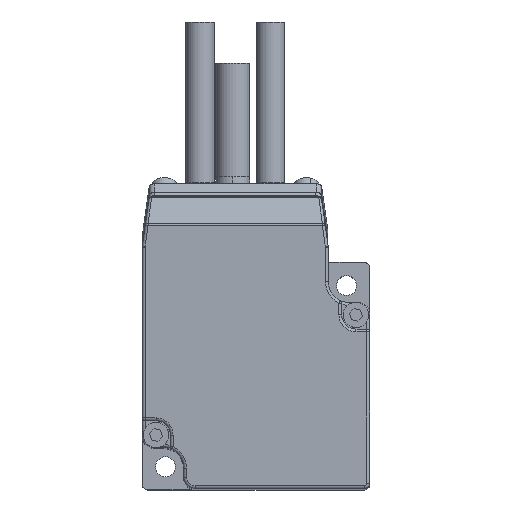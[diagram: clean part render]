
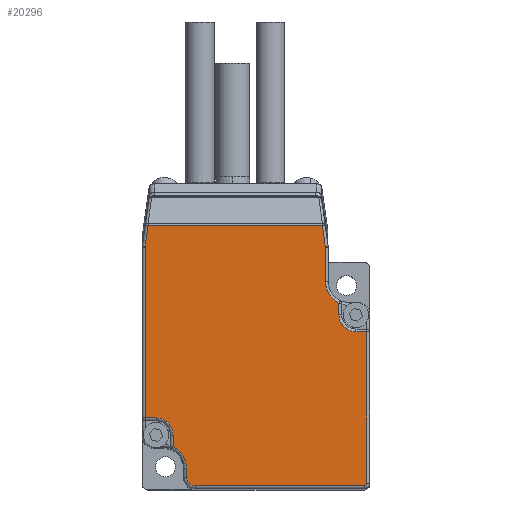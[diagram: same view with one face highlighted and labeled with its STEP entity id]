
A CAD part, top view. The second image highlights one B-rep face of the part: STEP entity #20296.
In plain terms, the highlighted planar face has unit normal (0, 0, 1).
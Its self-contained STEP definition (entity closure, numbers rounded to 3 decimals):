
#33 = VERTEX_POINT ( 'NONE', #17916 ) ;
#216 = EDGE_CURVE ( 'NONE', #25362, #13945, #21720, .T. ) ;
#451 = VECTOR ( 'NONE', #20936, 1000. ) ;
#492 = DIRECTION ( 'NONE',  ( 0., 0., 1. ) ) ;
#624 = AXIS2_PLACEMENT_3D ( 'NONE', #8398, #23127, #10527 ) ;
#648 = AXIS2_PLACEMENT_3D ( 'NONE', #25121, #21177, #12716 ) ;
#853 = ORIENTED_EDGE ( 'NONE', *, *, #216, .T. ) ;
#933 = DIRECTION ( 'NONE',  ( 0., -1., 0. ) ) ;
#1105 = CARTESIAN_POINT ( 'NONE',  ( 19.5, -19., 110.9 ) ) ;
#1124 = LINE ( 'NONE', #18381, #11713 ) ;
#1130 = CARTESIAN_POINT ( 'NONE',  ( -16.4, -16.4, 110.9 ) ) ;
#1301 = VERTEX_POINT ( 'NONE', #13078 ) ;
#1383 = ORIENTED_EDGE ( 'NONE', *, *, #20427, .T. ) ;
#1570 = CARTESIAN_POINT ( 'NONE',  ( 19., -19., 110.9 ) ) ;
#1739 = ORIENTED_EDGE ( 'NONE', *, *, #1761, .T. ) ;
#1761 = EDGE_CURVE ( 'NONE', #11754, #6625, #1843, .T. ) ;
#1843 = LINE ( 'NONE', #8227, #13425 ) ;
#2244 = EDGE_CURVE ( 'NONE', #20297, #21528, #11423, .T. ) ;
#2328 = EDGE_CURVE ( 'NONE', #21528, #5387, #3449, .T. ) ;
#2467 = DIRECTION ( 'NONE',  ( -0.139, 0.99, 0. ) ) ;
#2499 = ORIENTED_EDGE ( 'NONE', *, *, #2244, .T. ) ;
#2808 = CARTESIAN_POINT ( 'NONE',  ( 11.662, 26.293, 110.9 ) ) ;
#2841 = EDGE_CURVE ( 'NONE', #12619, #20297, #1124, .T. ) ;
#2984 = DIRECTION ( 'NONE',  ( -0.139, -0.99, 0. ) ) ;
#3262 = EDGE_CURVE ( 'NONE', #1301, #10643, #4762, .T. ) ;
#3449 = LINE ( 'NONE', #24603, #18982 ) ;
#3463 = VECTOR ( 'NONE', #22742, 1000. ) ;
#3482 = CIRCLE ( 'NONE', #10046, 4.2 ) ;
#3679 = DIRECTION ( 'NONE',  ( 1., 0., 0. ) ) ;
#3850 = ORIENTED_EDGE ( 'NONE', *, *, #4178, .T. ) ;
#3864 = ORIENTED_EDGE ( 'NONE', *, *, #12660, .T. ) ;
#3980 = CARTESIAN_POINT ( 'NONE',  ( 14.572, 10.558, 110.9 ) ) ;
#4083 = LINE ( 'NONE', #23343, #451 ) ;
#4178 = EDGE_CURVE ( 'NONE', #10643, #23416, #8676, .T. ) ;
#4249 = CARTESIAN_POINT ( 'NONE',  ( -19.5, -7.558, 110.9 ) ) ;
#4394 = AXIS2_PLACEMENT_3D ( 'NONE', #1570, #7914, #3679 ) ;
#4762 = LINE ( 'NONE', #9120, #14650 ) ;
#4964 = DIRECTION ( 'NONE',  ( 0., -1., 0. ) ) ;
#5133 = DIRECTION ( 'NONE',  ( 0., 1., 0. ) ) ;
#5387 = VERTEX_POINT ( 'NONE', #17021 ) ;
#5456 = EDGE_CURVE ( 'NONE', #23416, #11040, #8813, .T. ) ;
#5601 = LINE ( 'NONE', #9470, #13883 ) ;
#6264 = ORIENTED_EDGE ( 'NONE', *, *, #21857, .T. ) ;
#6607 = EDGE_CURVE ( 'NONE', #5387, #33, #11746, .T. ) ;
#6625 = VERTEX_POINT ( 'NONE', #24867 ) ;
#6764 = CARTESIAN_POINT ( 'NONE',  ( -17.572, -10.558, 110.9 ) ) ;
#6870 = CARTESIAN_POINT ( 'NONE',  ( -10.7, -18., 110.9 ) ) ;
#7296 = EDGE_CURVE ( 'NONE', #26459, #25362, #4083, .T. ) ;
#7441 = CARTESIAN_POINT ( 'NONE',  ( 17.572, 10.558, 110.9 ) ) ;
#7571 = EDGE_CURVE ( 'NONE', #8148, #12619, #19264, .T. ) ;
#7914 = DIRECTION ( 'NONE',  ( 0., 0., 1. ) ) ;
#7915 = DIRECTION ( 'NONE',  ( 1., 0., 0. ) ) ;
#7987 = CARTESIAN_POINT ( 'NONE',  ( 17.572, 7.558, 110.9 ) ) ;
#7999 = ORIENTED_EDGE ( 'NONE', *, *, #3262, .T. ) ;
#8148 = VERTEX_POINT ( 'NONE', #10165 ) ;
#8227 = CARTESIAN_POINT ( 'NONE',  ( -19.438, 26.293, 110.9 ) ) ;
#8398 = CARTESIAN_POINT ( 'NONE',  ( 16.4, 16.4, 110.9 ) ) ;
#8441 = CARTESIAN_POINT ( 'NONE',  ( 12.2, 16.4, 110.9 ) ) ;
#8676 = LINE ( 'NONE', #16591, #12670 ) ;
#8813 = CIRCLE ( 'NONE', #26288, 3. ) ;
#9120 = CARTESIAN_POINT ( 'NONE',  ( -19.5, -8.058, 110.9 ) ) ;
#9233 = DIRECTION ( 'NONE',  ( 1., 0., 0. ) ) ;
#9470 = CARTESIAN_POINT ( 'NONE',  ( 12.2, 22.5, 110.9 ) ) ;
#9645 = LINE ( 'NONE', #15651, #24484 ) ;
#9781 = DIRECTION ( 'NONE',  ( 1., 0., 0. ) ) ;
#10046 = AXIS2_PLACEMENT_3D ( 'NONE', #1130, #24174, #9781 ) ;
#10165 = CARTESIAN_POINT ( 'NONE',  ( -12.2, -18., 110.9 ) ) ;
#10216 = CARTESIAN_POINT ( 'NONE',  ( 19., -19.5, 110.9 ) ) ;
#10409 = VECTOR ( 'NONE', #23117, 1000. ) ;
#10527 = DIRECTION ( 'NONE',  ( 1., 0., 0. ) ) ;
#10643 = VERTEX_POINT ( 'NONE', #4249 ) ;
#11040 = VERTEX_POINT ( 'NONE', #27170 ) ;
#11247 = CARTESIAN_POINT ( 'NONE',  ( 11.643, 26.43, 110.9 ) ) ;
#11423 = CIRCLE ( 'NONE', #4394, 0.5 ) ;
#11703 = DIRECTION ( 'NONE',  ( 1., 0., 0. ) ) ;
#11713 = VECTOR ( 'NONE', #7915, 1000. ) ;
#11732 = LINE ( 'NONE', #18731, #10409 ) ;
#11746 = LINE ( 'NONE', #7987, #3463 ) ;
#11754 = VERTEX_POINT ( 'NONE', #2808 ) ;
#11825 = AXIS2_PLACEMENT_3D ( 'NONE', #7441, #11871, #11703 ) ;
#11871 = DIRECTION ( 'NONE',  ( 0., 0., -1. ) ) ;
#12288 = ORIENTED_EDGE ( 'NONE', *, *, #21990, .T. ) ;
#12351 = FACE_OUTER_BOUND ( 'NONE', #22385, .T. ) ;
#12358 = PLANE ( 'NONE',  #648 ) ;
#12619 = VERTEX_POINT ( 'NONE', #16129 ) ;
#12660 = EDGE_CURVE ( 'NONE', #20216, #14965, #3482, .T. ) ;
#12670 = VECTOR ( 'NONE', #25022, 1000. ) ;
#12716 = DIRECTION ( 'NONE',  ( 1., 0., 0. ) ) ;
#12926 = VECTOR ( 'NONE', #2467, 1000. ) ;
#13078 = CARTESIAN_POINT ( 'NONE',  ( -19.5, 22.465, 110.9 ) ) ;
#13140 = DIRECTION ( 'NONE',  ( 0., 0., -1. ) ) ;
#13425 = VECTOR ( 'NONE', #22972, 1000. ) ;
#13633 = ORIENTED_EDGE ( 'NONE', *, *, #7296, .T. ) ;
#13651 = CIRCLE ( 'NONE', #11825, 3. ) ;
#13851 = ORIENTED_EDGE ( 'NONE', *, *, #5456, .T. ) ;
#13883 = VECTOR ( 'NONE', #24293, 1000. ) ;
#13945 = VERTEX_POINT ( 'NONE', #8441 ) ;
#14237 = EDGE_CURVE ( 'NONE', #6625, #1301, #9645, .T. ) ;
#14394 = ORIENTED_EDGE ( 'NONE', *, *, #2328, .T. ) ;
#14650 = VECTOR ( 'NONE', #4964, 1000. ) ;
#14907 = LINE ( 'NONE', #11247, #12926 ) ;
#14965 = VERTEX_POINT ( 'NONE', #16703 ) ;
#15234 = VERTEX_POINT ( 'NONE', #17595 ) ;
#15379 = DIRECTION ( 'NONE',  ( 1., 0., 0. ) ) ;
#15651 = CARTESIAN_POINT ( 'NONE',  ( -19.505, 22.43, 110.9 ) ) ;
#15802 = AXIS2_PLACEMENT_3D ( 'NONE', #6870, #492, #15379 ) ;
#15837 = EDGE_CURVE ( 'NONE', #14965, #8148, #25409, .T. ) ;
#16129 = CARTESIAN_POINT ( 'NONE',  ( -10.7, -19.5, 110.9 ) ) ;
#16591 = CARTESIAN_POINT ( 'NONE',  ( -17.572, -7.558, 110.9 ) ) ;
#16703 = CARTESIAN_POINT ( 'NONE',  ( -12.2, -16.4, 110.9 ) ) ;
#17021 = CARTESIAN_POINT ( 'NONE',  ( 19.5, 7.558, 110.9 ) ) ;
#17381 = CARTESIAN_POINT ( 'NONE',  ( 14.572, 12.619, 110.9 ) ) ;
#17412 = ORIENTED_EDGE ( 'NONE', *, *, #19707, .T. ) ;
#17595 = CARTESIAN_POINT ( 'NONE',  ( 12.2, 22.465, 110.9 ) ) ;
#17916 = CARTESIAN_POINT ( 'NONE',  ( 17.572, 7.558, 110.9 ) ) ;
#18005 = ORIENTED_EDGE ( 'NONE', *, *, #7571, .T. ) ;
#18381 = CARTESIAN_POINT ( 'NONE',  ( 19., -19.5, 110.9 ) ) ;
#18731 = CARTESIAN_POINT ( 'NONE',  ( -14.572, -19., 110.9 ) ) ;
#18982 = VECTOR ( 'NONE', #5133, 1000. ) ;
#19264 = CIRCLE ( 'NONE', #15802, 1.5 ) ;
#19707 = EDGE_CURVE ( 'NONE', #11040, #20216, #11732, .T. ) ;
#19883 = CARTESIAN_POINT ( 'NONE',  ( -17.572, -7.558, 110.9 ) ) ;
#20216 = VERTEX_POINT ( 'NONE', #22558 ) ;
#20296 = ADVANCED_FACE ( 'NONE', ( #12351 ), #12358, .T. ) ;
#20297 = VERTEX_POINT ( 'NONE', #10216 ) ;
#20427 = EDGE_CURVE ( 'NONE', #33, #26459, #13651, .T. ) ;
#20800 = VECTOR ( 'NONE', #933, 1000. ) ;
#20846 = ORIENTED_EDGE ( 'NONE', *, *, #14237, .T. ) ;
#20936 = DIRECTION ( 'NONE',  ( 0., 1., 0. ) ) ;
#21177 = DIRECTION ( 'NONE',  ( 0., 0., 1. ) ) ;
#21528 = VERTEX_POINT ( 'NONE', #1105 ) ;
#21720 = CIRCLE ( 'NONE', #624, 4.2 ) ;
#21857 = EDGE_CURVE ( 'NONE', #15234, #11754, #14907, .T. ) ;
#21990 = EDGE_CURVE ( 'NONE', #13945, #15234, #5601, .T. ) ;
#22037 = CARTESIAN_POINT ( 'NONE',  ( -12.2, -18., 110.9 ) ) ;
#22385 = EDGE_LOOP ( 'NONE', ( #1383, #13633, #853, #12288, #6264, #1739, #20846, #7999, #3850, #13851, #17412, #3864, #27077, #18005, #23519, #2499, #14394, #26287 ) ) ;
#22558 = CARTESIAN_POINT ( 'NONE',  ( -14.572, -12.619, 110.9 ) ) ;
#22742 = DIRECTION ( 'NONE',  ( -1., 0., 0. ) ) ;
#22972 = DIRECTION ( 'NONE',  ( -1., 0., 0. ) ) ;
#23117 = DIRECTION ( 'NONE',  ( 0., -1., 0. ) ) ;
#23127 = DIRECTION ( 'NONE',  ( 0., 0., -1. ) ) ;
#23343 = CARTESIAN_POINT ( 'NONE',  ( 14.572, -19., 110.9 ) ) ;
#23416 = VERTEX_POINT ( 'NONE', #19883 ) ;
#23519 = ORIENTED_EDGE ( 'NONE', *, *, #2841, .T. ) ;
#24174 = DIRECTION ( 'NONE',  ( 0., 0., -1. ) ) ;
#24293 = DIRECTION ( 'NONE',  ( 0., 1., 0. ) ) ;
#24484 = VECTOR ( 'NONE', #2984, 1000. ) ;
#24603 = CARTESIAN_POINT ( 'NONE',  ( 19.5, 8.058, 110.9 ) ) ;
#24867 = CARTESIAN_POINT ( 'NONE',  ( -18.962, 26.293, 110.9 ) ) ;
#25022 = DIRECTION ( 'NONE',  ( 1., 0., 0. ) ) ;
#25121 = CARTESIAN_POINT ( 'NONE',  ( -19., -19., 110.9 ) ) ;
#25362 = VERTEX_POINT ( 'NONE', #17381 ) ;
#25409 = LINE ( 'NONE', #22037, #20800 ) ;
#26287 = ORIENTED_EDGE ( 'NONE', *, *, #6607, .T. ) ;
#26288 = AXIS2_PLACEMENT_3D ( 'NONE', #6764, #13140, #9233 ) ;
#26459 = VERTEX_POINT ( 'NONE', #3980 ) ;
#27077 = ORIENTED_EDGE ( 'NONE', *, *, #15837, .T. ) ;
#27170 = CARTESIAN_POINT ( 'NONE',  ( -14.572, -10.558, 110.9 ) ) ;
